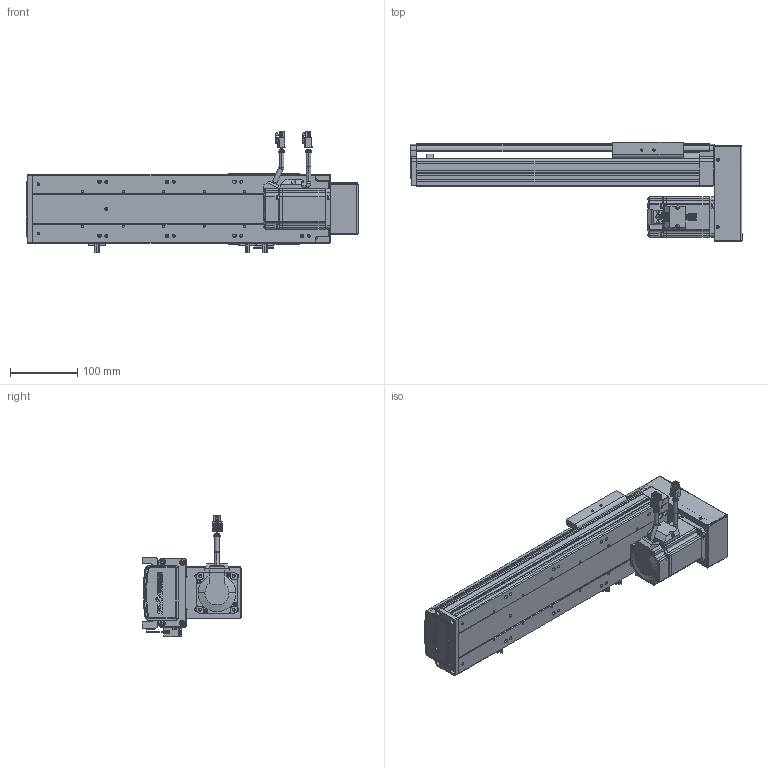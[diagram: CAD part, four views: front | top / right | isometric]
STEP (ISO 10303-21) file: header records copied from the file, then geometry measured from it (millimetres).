
FILE_DESCRIPTION (( 'STEP AP203' ), '1' );
FILE_NAME ('RY100S-L1620-300-BK(15双轨).SLDASM_250.step', '2021-02-20T08:22:51', ( '盈信电脑' ), ( '东莞市道滘镇水果街19号' ), 'SwSTEP 2.0', 'SolidWorks 2012', '' );
FILE_SCHEMA (( 'CONFIG_CONTROL_DESIGN' ));
Products named in the file (26): RY100S-狟殏萇儂郪; RY100S-L1620-300-BK(15邧寢).SLDASM_250; 侂狟200W萇儂; 肮祭湍5M遵15笚酗260; 7; RY100S下折电机安装板（15双轨）; 5; 4; 3; 6; 1; RY80肮祭湍覃踡啣; 3M30喘15遵; 2; RY100S狟殏萇儂欶(15邧寢); RY100S-絳寢EGH15-350-LK(腴郪15邧寢)_250; RY80肮祭湍芢雄輸; RY100綴裔啣; RY100S转折电机端支撑座(15双轨); RY100俋离覜茼え; 滅袉蝶18-24; 滅袉蝶18-10; 覜茼ん672; RY100S-300-LK转折型材上盖(15双轨)_250; RY100S铝滑块（15双轨单滑块）底组装导轨; RY100S-350-LK型材底座(低组15双轨)_250
Assembly tree (28 placements, depth 4):
  RY100S-L1620-300-BK(15邧寢).SLDASM_250
    RY100S-350-LK型材底座(低组15双轨)_250
    RY100S-300-LK转折型材上盖(15双轨)_250
    RY100S铝滑块（15双轨单滑块）底组装导轨
    覜茼ん672  x3
    滅袉蝶18-10
    RY100俋离覜茼え
    RY100S转折电机端支撑座(15双轨)
    滅袉蝶18-24
    RY100綴裔啣
    RY100S-絳寢EGH15-350-LK(腴郪15邧寢)_250
    RY100S-狟殏萇儂郪
      RY80肮祭湍芢雄輸  x2
      RY100S狟殏萇儂欶(15邧寢)
      3M30喘15遵
      RY80肮祭湍覃踡啣
      侂狟200W萇儂
        1
        2
        3
        4
        5
        6
        7
      肮祭湍5M遵15笚酗260
      RY100S下折电机安装板（15双轨）
Bounding box: 492 x 147 x 179.5 mm (x, y, z)
Volume: 1560752.8 mm3; surface area: 577809.5 mm2
Topology: 26 solids, 26 shells, 3142 faces, 8425 edges, 5426 vertices
Faces by surface type: plane 1684, cylinder 1175, cone 169, bspline 114
Entity records: 101568 total; most frequent: CARTESIAN_POINT 24921, ORIENTED_EDGE 15554, DIRECTION 15172, EDGE_CURVE 7777, AXIS2_PLACEMENT_3D 5148, VERTEX_POINT 5062, LINE 4876, VECTOR 4876
